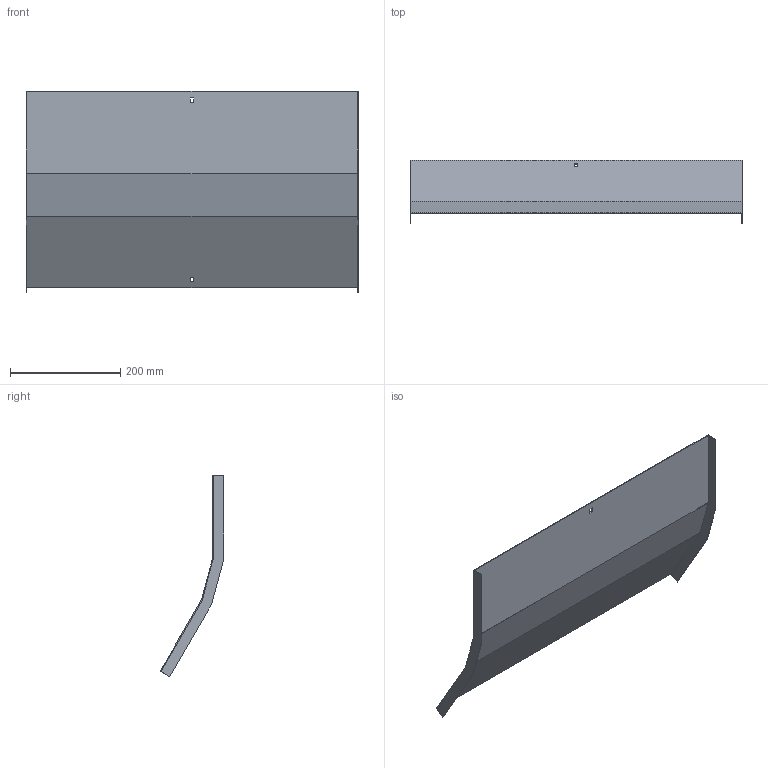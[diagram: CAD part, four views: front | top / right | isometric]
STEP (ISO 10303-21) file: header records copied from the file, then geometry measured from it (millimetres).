
FILE_DESCRIPTION (( 'STEP AP214' ), '1' );
FILE_NAME ('A2X32N3R600X.step', '2025-03-20T09:39:02', ( '' ), ( '' ), 'SwSTEP 2.0', 'SolidWorks 2023', '' );
FILE_SCHEMA (( 'AUTOMOTIVE_DESIGN' ));
Length unit declared in the file: millimetre
Products named in the file (1): A2X32N3R600X
Bounding box: 603 x 115.32 x 365.74 mm (x, y, z)
Volume: 363855.9 mm3; surface area: 488320.1 mm2
Topology: 1 solids, 1 shells, 26 faces, 72 edges, 48 vertices
Faces by surface type: plane 26
Entity records: 847 total; most frequent: CARTESIAN_POINT 147, ORIENTED_EDGE 144, DIRECTION 126, VECTOR 72, EDGE_CURVE 72, LINE 72, VERTEX_POINT 48, EDGE_LOOP 30
